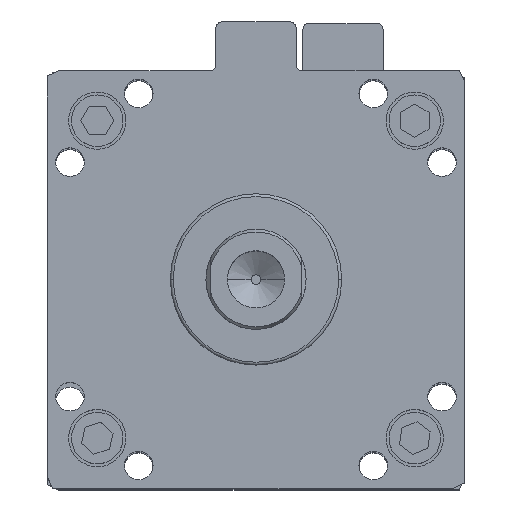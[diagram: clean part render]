
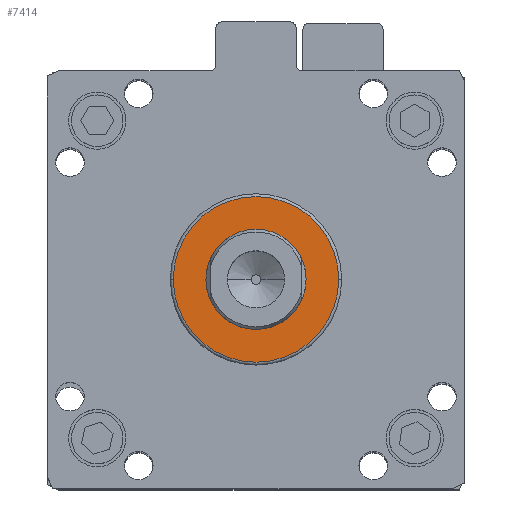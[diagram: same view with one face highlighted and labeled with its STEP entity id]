
A CAD part, top view. The second image highlights one B-rep face of the part: STEP entity #7414.
In plain terms, the highlighted planar face has unit normal (0, 0, 1).
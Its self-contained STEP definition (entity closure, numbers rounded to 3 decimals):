
#120 = CARTESIAN_POINT ( 'NONE',  ( 0., 0., 30. ) ) ;
#494 = CARTESIAN_POINT ( 'NONE',  ( 0., 0., 30. ) ) ;
#665 = DIRECTION ( 'NONE',  ( 1., 0., 0. ) ) ;
#690 = CARTESIAN_POINT ( 'NONE',  ( 0., 0., 30. ) ) ;
#749 = ORIENTED_EDGE ( 'NONE', *, *, #8629, .T. ) ;
#863 = DIRECTION ( 'NONE',  ( 1., 0., 0. ) ) ;
#865 = CARTESIAN_POINT ( 'NONE',  ( -17.5, 0., 30. ) ) ;
#1055 = ORIENTED_EDGE ( 'NONE', *, *, #6945, .T. ) ;
#1058 = AXIS2_PLACEMENT_3D ( 'NONE', #494, #5594, #1224 ) ;
#1127 = CARTESIAN_POINT ( 'NONE',  ( -28.95, 0., 30. ) ) ;
#1224 = DIRECTION ( 'NONE',  ( 1., 0., 0. ) ) ;
#1357 = DIRECTION ( 'NONE',  ( 0., 0., 1. ) ) ;
#1433 = DIRECTION ( 'NONE',  ( 1., 0., 0. ) ) ;
#1726 = CIRCLE ( 'NONE', #3624, 17.5 ) ;
#1755 = VERTEX_POINT ( 'NONE', #1127 ) ;
#2833 = CIRCLE ( 'NONE', #5808, 28.95 ) ;
#2900 = VERTEX_POINT ( 'NONE', #9125 ) ;
#3516 = VERTEX_POINT ( 'NONE', #865 ) ;
#3531 = PLANE ( 'NONE',  #5451 ) ;
#3624 = AXIS2_PLACEMENT_3D ( 'NONE', #690, #5795, #1433 ) ;
#3965 = CIRCLE ( 'NONE', #8414, 28.95 ) ;
#4237 = ORIENTED_EDGE ( 'NONE', *, *, #7302, .F. ) ;
#4281 = FACE_OUTER_BOUND ( 'NONE', #7073, .T. ) ;
#4878 = VERTEX_POINT ( 'NONE', #7309 ) ;
#5032 = DIRECTION ( 'NONE',  ( 0., 0., 1. ) ) ;
#5234 = DIRECTION ( 'NONE',  ( 0., 0., 1. ) ) ;
#5422 = CIRCLE ( 'NONE', #1058, 17.5 ) ;
#5451 = AXIS2_PLACEMENT_3D ( 'NONE', #9294, #1357, #6447 ) ;
#5594 = DIRECTION ( 'NONE',  ( 0., 0., 1. ) ) ;
#5795 = DIRECTION ( 'NONE',  ( 0., 0., 1. ) ) ;
#5808 = AXIS2_PLACEMENT_3D ( 'NONE', #9339, #5032, #665 ) ;
#5863 = ORIENTED_EDGE ( 'NONE', *, *, #6066, .F. ) ;
#6066 = EDGE_CURVE ( 'NONE', #2900, #3516, #1726, .T. ) ;
#6438 = FACE_BOUND ( 'NONE', #8879, .T. ) ;
#6447 = DIRECTION ( 'NONE',  ( 1., 0., 0. ) ) ;
#6945 = EDGE_CURVE ( 'NONE', #4878, #1755, #2833, .T. ) ;
#7073 = EDGE_LOOP ( 'NONE', ( #1055, #749 ) ) ;
#7302 = EDGE_CURVE ( 'NONE', #3516, #2900, #5422, .T. ) ;
#7309 = CARTESIAN_POINT ( 'NONE',  ( 28.95, 0., 30. ) ) ;
#7414 = ADVANCED_FACE ( 'NONE', ( #4281, #6438 ), #3531, .T. ) ;
#8414 = AXIS2_PLACEMENT_3D ( 'NONE', #120, #5234, #863 ) ;
#8629 = EDGE_CURVE ( 'NONE', #1755, #4878, #3965, .T. ) ;
#8879 = EDGE_LOOP ( 'NONE', ( #4237, #5863 ) ) ;
#9125 = CARTESIAN_POINT ( 'NONE',  ( 17.5, 0., 30. ) ) ;
#9294 = CARTESIAN_POINT ( 'NONE',  ( 0., 0., 30. ) ) ;
#9339 = CARTESIAN_POINT ( 'NONE',  ( 0., 0., 30. ) ) ;
